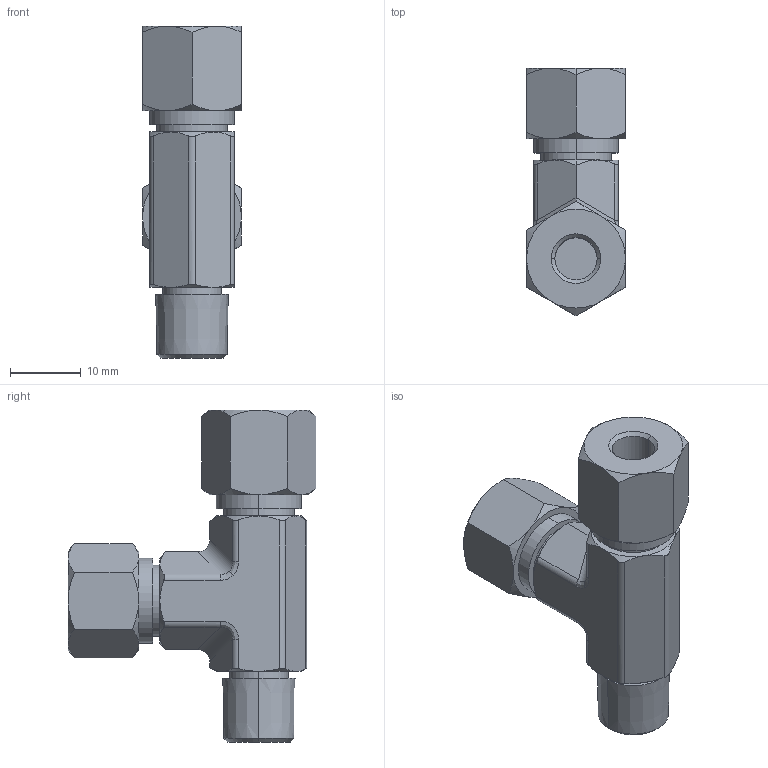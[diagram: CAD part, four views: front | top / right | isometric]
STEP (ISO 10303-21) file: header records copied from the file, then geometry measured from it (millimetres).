
FILE_DESCRIPTION (( 'STEP AP203' ), '1' );
FILE_NAME ('DXH34L0006 N1.STEP', '2018-10-28T16:59:24', ( '' ), ( '' ), 'SwSTEP 2.0', 'SolidWorks 2013', '' );
FILE_SCHEMA (( 'CONFIG_CONTROL_DESIGN' ));
Length unit declared in the file: millimetre
Products named in the file (1): DXH34L0006 N1
Bounding box: 14 x 35.08 x 47 mm (x, y, z)
Volume: 7589.8 mm3; surface area: 4873.8 mm2
Topology: 2 solids, 2 shells, 134 faces, 298 edges, 175 vertices
Faces by surface type: cone 55, plane 39, cylinder 34, bspline 6
Entity records: 4182 total; most frequent: CARTESIAN_POINT 1360, ORIENTED_EDGE 596, DIRECTION 535, EDGE_CURVE 298, AXIS2_PLACEMENT_3D 228, VERTEX_POINT 175, EDGE_LOOP 145, FACE_OUTER_BOUND 134
